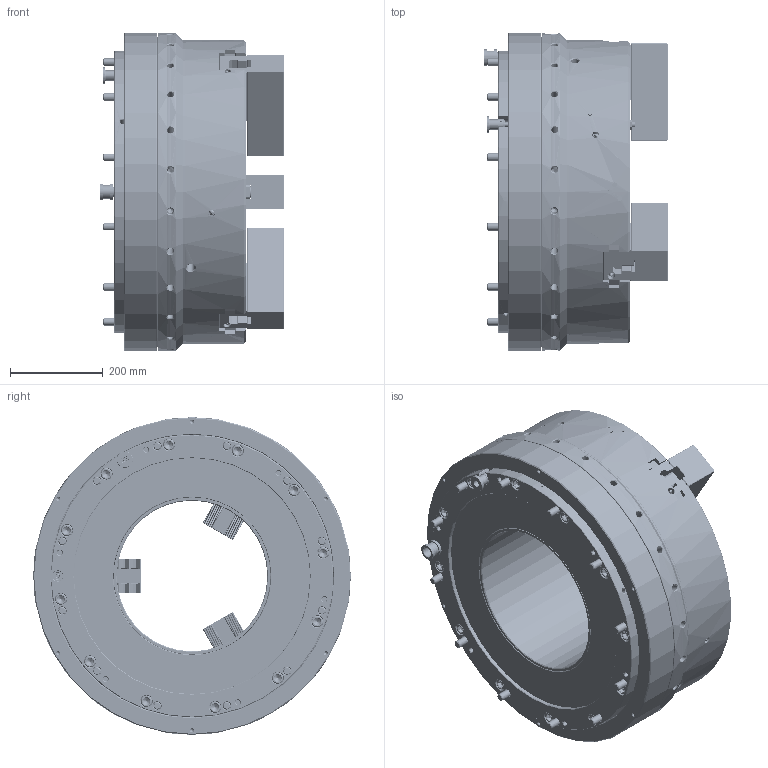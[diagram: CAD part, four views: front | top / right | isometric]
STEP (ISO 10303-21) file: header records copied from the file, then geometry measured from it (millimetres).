
FILE_DESCRIPTION (( 'STEP AP214' ), '1' );
FILE_NAME ('UPR650A325_OC.STEP', '2025-12-26T00:51:58', ( '' ), ( '' ), 'SwSTEP 2.0', 'SolidWorks 2022', '' );
FILE_SCHEMA (( 'AUTOMOTIVE_DESIGN' ));
Length unit declared in the file: millimetre
Products named in the file (5): 61P858712; UPR650A325_OC; 61P446153; UPR650A325_本体; 0030124060
Assembly tree (16 placements, depth 2):
  UPR650A325_OC
    61P858712  x3
    61P446153  x6
    0030124060  x6
    UPR650A325_本体
Bounding box: 396.3 x 685 x 685 mm (x, y, z)
Volume: 75533474.1 mm3; surface area: 3369045.6 mm2
Topology: 17 solids, 36 shells, 11362 faces, 31583 edges, 20642 vertices
Faces by surface type: plane 6082, cylinder 3084, bspline 1045, cone 989, torus 150, sphere 12
Entity records: 333396 total; most frequent: CARTESIAN_POINT 113251, ORIENTED_EDGE 50594, DIRECTION 38193, EDGE_CURVE 25297, VECTOR 16629, LINE 16629, VERTEX_POINT 16589, AXIS2_PLACEMENT_3D 10782
